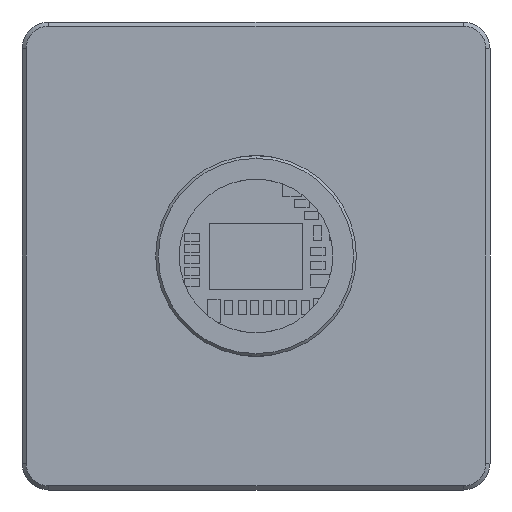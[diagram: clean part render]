
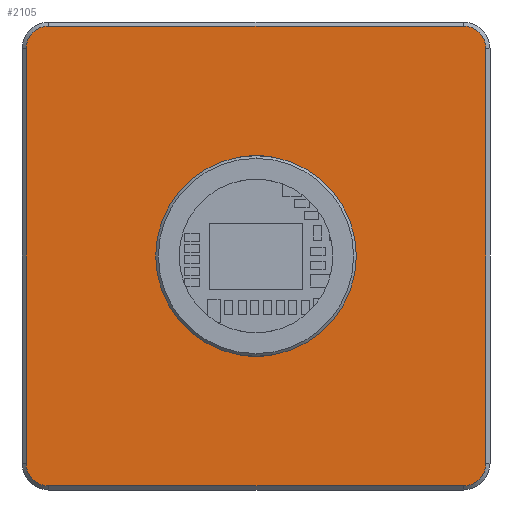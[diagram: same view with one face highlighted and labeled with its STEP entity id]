
A CAD part, front view. The second image highlights one B-rep face of the part: STEP entity #2105.
In plain terms, the highlighted planar face has unit normal (0, -1, 0).
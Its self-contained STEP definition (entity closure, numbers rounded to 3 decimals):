
#173 = EDGE_CURVE ( 'NONE', #363, #13740, #27548, .T. ) ;
#363 = VERTEX_POINT ( 'NONE', #16045 ) ;
#435 = VECTOR ( 'NONE', #14216, 1000. ) ;
#448 = CARTESIAN_POINT ( 'NONE',  ( 15.5, 0., 15.5 ) ) ;
#1247 = DIRECTION ( 'NONE',  ( 0., -1., 0. ) ) ;
#2097 = EDGE_CURVE ( 'NONE', #34279, #15629, #16094, .T. ) ;
#2105 = ADVANCED_FACE ( 'NONE', ( #5268, #13691 ), #24611, .F. ) ;
#3690 = LINE ( 'NONE', #14965, #7217 ) ;
#3821 = CARTESIAN_POINT ( 'NONE',  ( 15.5, 0., -15.5 ) ) ;
#4376 = AXIS2_PLACEMENT_3D ( 'NONE', #3821, #9546, #34026 ) ;
#5148 = ORIENTED_EDGE ( 'NONE', *, *, #7735, .T. ) ;
#5190 = CARTESIAN_POINT ( 'NONE',  ( 0., 0., 7.5 ) ) ;
#5268 = FACE_OUTER_BOUND ( 'NONE', #5278, .T. ) ;
#5278 = EDGE_LOOP ( 'NONE', ( #25596, #23788, #18835, #21507, #27883, #22685, #30986, #5148 ) ) ;
#5828 = ORIENTED_EDGE ( 'NONE', *, *, #173, .F. ) ;
#7217 = VECTOR ( 'NONE', #9054, 1000. ) ;
#7359 = LINE ( 'NONE', #23509, #30779 ) ;
#7735 = EDGE_CURVE ( 'NONE', #15292, #29970, #3690, .T. ) ;
#7996 = VERTEX_POINT ( 'NONE', #8834 ) ;
#8070 = EDGE_CURVE ( 'NONE', #7996, #32902, #19789, .T. ) ;
#8659 = DIRECTION ( 'NONE',  ( 0., 0., 1. ) ) ;
#8834 = CARTESIAN_POINT ( 'NONE',  ( 15.5, 0., -17.2 ) ) ;
#9054 = DIRECTION ( 'NONE',  ( 0., 0., -1. ) ) ;
#9093 = DIRECTION ( 'NONE',  ( 0., -1., 0. ) ) ;
#9121 = CARTESIAN_POINT ( 'NONE',  ( -15.5, 0., 15.5 ) ) ;
#9368 = DIRECTION ( 'NONE',  ( -1., 0., 0. ) ) ;
#9546 = DIRECTION ( 'NONE',  ( 0., -1., 0. ) ) ;
#11361 = CARTESIAN_POINT ( 'NONE',  ( -17.5, 0., 17.5 ) ) ;
#11639 = DIRECTION ( 'NONE',  ( 0., 0., 1. ) ) ;
#12051 = VERTEX_POINT ( 'NONE', #22297 ) ;
#12454 = DIRECTION ( 'NONE',  ( 0., -1., 0. ) ) ;
#12660 = EDGE_CURVE ( 'NONE', #29970, #12051, #21504, .T. ) ;
#12935 = AXIS2_PLACEMENT_3D ( 'NONE', #17148, #1247, #11639 ) ;
#13691 = FACE_BOUND ( 'NONE', #14350, .T. ) ;
#13740 = VERTEX_POINT ( 'NONE', #5190 ) ;
#14181 = CARTESIAN_POINT ( 'NONE',  ( 17.2, 0., 17.5 ) ) ;
#14216 = DIRECTION ( 'NONE',  ( 1., 0., 0. ) ) ;
#14350 = EDGE_LOOP ( 'NONE', ( #21740, #5828 ) ) ;
#14742 = AXIS2_PLACEMENT_3D ( 'NONE', #9121, #33604, #22915 ) ;
#14965 = CARTESIAN_POINT ( 'NONE',  ( -17.2, 0., 17.5 ) ) ;
#14979 = AXIS2_PLACEMENT_3D ( 'NONE', #30876, #9093, #25740 ) ;
#15292 = VERTEX_POINT ( 'NONE', #21422 ) ;
#15629 = VERTEX_POINT ( 'NONE', #23903 ) ;
#16045 = CARTESIAN_POINT ( 'NONE',  ( 0., 0., -7.5 ) ) ;
#16094 = CIRCLE ( 'NONE', #33196, 1.7 ) ;
#16889 = LINE ( 'NONE', #30452, #435 ) ;
#17148 = CARTESIAN_POINT ( 'NONE',  ( -15.5, 0., -15.5 ) ) ;
#17702 = VERTEX_POINT ( 'NONE', #23243 ) ;
#17959 = DIRECTION ( 'NONE',  ( 0., 0., 1. ) ) ;
#18835 = ORIENTED_EDGE ( 'NONE', *, *, #8070, .T. ) ;
#18847 = DIRECTION ( 'NONE',  ( 0., -1., 0. ) ) ;
#18868 = CARTESIAN_POINT ( 'NONE',  ( 17.2, 0., -15.5 ) ) ;
#19332 = AXIS2_PLACEMENT_3D ( 'NONE', #31531, #12454, #17959 ) ;
#19570 = EDGE_CURVE ( 'NONE', #12051, #7996, #16889, .T. ) ;
#19789 = CIRCLE ( 'NONE', #4376, 1.7 ) ;
#21422 = CARTESIAN_POINT ( 'NONE',  ( -17.2, 0., 15.5 ) ) ;
#21504 = CIRCLE ( 'NONE', #12935, 1.7 ) ;
#21507 = ORIENTED_EDGE ( 'NONE', *, *, #29780, .T. ) ;
#21740 = ORIENTED_EDGE ( 'NONE', *, *, #27273, .F. ) ;
#22297 = CARTESIAN_POINT ( 'NONE',  ( -15.5, 0., -17.2 ) ) ;
#22416 = DIRECTION ( 'NONE',  ( 0., 0., 1. ) ) ;
#22685 = ORIENTED_EDGE ( 'NONE', *, *, #28306, .T. ) ;
#22915 = DIRECTION ( 'NONE',  ( 0., 0., 1. ) ) ;
#23243 = CARTESIAN_POINT ( 'NONE',  ( -15.5, 0., 17.2 ) ) ;
#23509 = CARTESIAN_POINT ( 'NONE',  ( -17.5, 0., 17.2 ) ) ;
#23788 = ORIENTED_EDGE ( 'NONE', *, *, #19570, .T. ) ;
#23903 = CARTESIAN_POINT ( 'NONE',  ( 15.5, 0., 17.2 ) ) ;
#24611 = PLANE ( 'NONE',  #25814 ) ;
#24926 = LINE ( 'NONE', #14181, #28646 ) ;
#25596 = ORIENTED_EDGE ( 'NONE', *, *, #12660, .T. ) ;
#25740 = DIRECTION ( 'NONE',  ( 0., 0., 1. ) ) ;
#25814 = AXIS2_PLACEMENT_3D ( 'NONE', #11361, #33136, #8659 ) ;
#26424 = EDGE_CURVE ( 'NONE', #17702, #15292, #35292, .T. ) ;
#27273 = EDGE_CURVE ( 'NONE', #13740, #363, #29037, .T. ) ;
#27548 = CIRCLE ( 'NONE', #14979, 7.5 ) ;
#27883 = ORIENTED_EDGE ( 'NONE', *, *, #2097, .T. ) ;
#28306 = EDGE_CURVE ( 'NONE', #15629, #17702, #7359, .T. ) ;
#28646 = VECTOR ( 'NONE', #22416, 1000. ) ;
#29037 = CIRCLE ( 'NONE', #19332, 7.5 ) ;
#29610 = CARTESIAN_POINT ( 'NONE',  ( 17.2, 0., 15.5 ) ) ;
#29750 = DIRECTION ( 'NONE',  ( 0., 0., 1. ) ) ;
#29780 = EDGE_CURVE ( 'NONE', #32902, #34279, #24926, .T. ) ;
#29970 = VERTEX_POINT ( 'NONE', #34965 ) ;
#30452 = CARTESIAN_POINT ( 'NONE',  ( -17.5, 0., -17.2 ) ) ;
#30779 = VECTOR ( 'NONE', #9368, 1000. ) ;
#30876 = CARTESIAN_POINT ( 'NONE',  ( 0., 0., 0. ) ) ;
#30986 = ORIENTED_EDGE ( 'NONE', *, *, #26424, .T. ) ;
#31531 = CARTESIAN_POINT ( 'NONE',  ( 0., 0., 0. ) ) ;
#32902 = VERTEX_POINT ( 'NONE', #18868 ) ;
#33136 = DIRECTION ( 'NONE',  ( 0., 1., 0. ) ) ;
#33196 = AXIS2_PLACEMENT_3D ( 'NONE', #448, #18847, #29750 ) ;
#33604 = DIRECTION ( 'NONE',  ( 0., -1., 0. ) ) ;
#34026 = DIRECTION ( 'NONE',  ( 0., 0., 1. ) ) ;
#34279 = VERTEX_POINT ( 'NONE', #29610 ) ;
#34965 = CARTESIAN_POINT ( 'NONE',  ( -17.2, 0., -15.5 ) ) ;
#35292 = CIRCLE ( 'NONE', #14742, 1.7 ) ;
